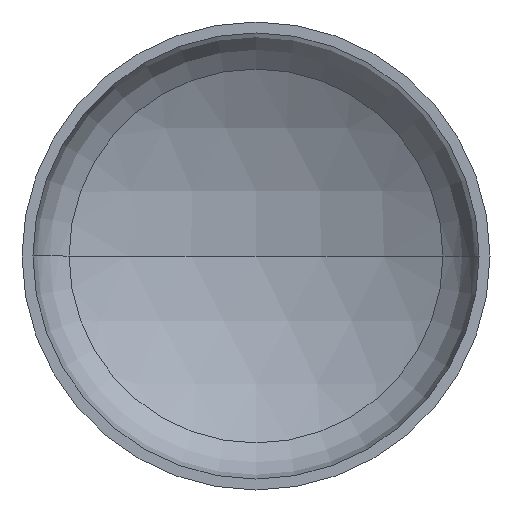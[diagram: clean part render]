
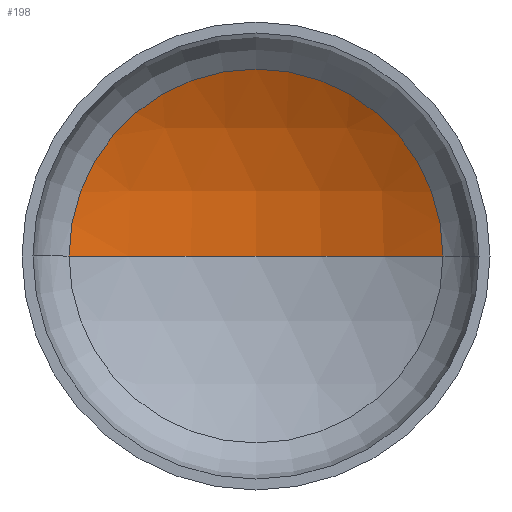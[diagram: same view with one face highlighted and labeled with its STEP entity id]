
A CAD part, front view. The second image highlights one B-rep face of the part: STEP entity #198.
In plain terms, the highlighted spherical face has radius 1920 mm.
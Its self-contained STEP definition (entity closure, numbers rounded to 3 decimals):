
#9 = DIRECTION ( 'NONE',  ( -1., 0., 0. ) ) ;
#10 = EDGE_LOOP ( 'NONE', ( #13, #114, #216 ) ) ;
#13 = ORIENTED_EDGE ( 'NONE', *, *, #140, .F. ) ;
#26 = VERTEX_POINT ( 'NONE', #375 ) ;
#46 = AXIS2_PLACEMENT_3D ( 'NONE', #274, #237, #296 ) ;
#54 = AXIS2_PLACEMENT_3D ( 'NONE', #85, #288, #244 ) ;
#57 = AXIS2_PLACEMENT_3D ( 'NONE', #219, #328, #9 ) ;
#60 = AXIS2_PLACEMENT_3D ( 'NONE', #215, #310, #179 ) ;
#73 = VERTEX_POINT ( 'NONE', #262 ) ;
#85 = CARTESIAN_POINT ( 'NONE',  ( 0., -1222.916, 0. ) ) ;
#87 = CIRCLE ( 'NONE', #60, 958.761 ) ;
#114 = ORIENTED_EDGE ( 'NONE', *, *, #138, .T. ) ;
#117 = VERTEX_POINT ( 'NONE', #263 ) ;
#137 = EDGE_CURVE ( 'NONE', #73, #117, #87, .T. ) ;
#138 = EDGE_CURVE ( 'NONE', #26, #73, #370, .T. ) ;
#140 = EDGE_CURVE ( 'NONE', #26, #117, #247, .T. ) ;
#179 = DIRECTION ( 'NONE',  ( 1., 0., 0. ) ) ;
#181 = SPHERICAL_SURFACE ( 'NONE', #46, 1920. ) ;
#198 = ADVANCED_FACE ( 'NONE', ( #295 ), #181, .F. ) ;
#215 = CARTESIAN_POINT ( 'NONE',  ( 0., 440.567, 0. ) ) ;
#216 = ORIENTED_EDGE ( 'NONE', *, *, #137, .T. ) ;
#219 = CARTESIAN_POINT ( 'NONE',  ( 0., -1222.916, 0. ) ) ;
#237 = DIRECTION ( 'NONE',  ( 0., 0., -1. ) ) ;
#244 = DIRECTION ( 'NONE',  ( 1., 0., 0. ) ) ;
#247 = CIRCLE ( 'NONE', #54, 1920. ) ;
#262 = CARTESIAN_POINT ( 'NONE',  ( 958.761, 440.567, 0. ) ) ;
#263 = CARTESIAN_POINT ( 'NONE',  ( -958.761, 440.567, 0. ) ) ;
#274 = CARTESIAN_POINT ( 'NONE',  ( 0., -1222.916, 0. ) ) ;
#288 = DIRECTION ( 'NONE',  ( 0., 0., 1. ) ) ;
#295 = FACE_OUTER_BOUND ( 'NONE', #10, .T. ) ;
#296 = DIRECTION ( 'NONE',  ( -1., 0., 0. ) ) ;
#310 = DIRECTION ( 'NONE',  ( 0., -1., 0. ) ) ;
#328 = DIRECTION ( 'NONE',  ( 0., 0., -1. ) ) ;
#370 = CIRCLE ( 'NONE', #57, 1920. ) ;
#375 = CARTESIAN_POINT ( 'NONE',  ( 0., 697.084, 0. ) ) ;
